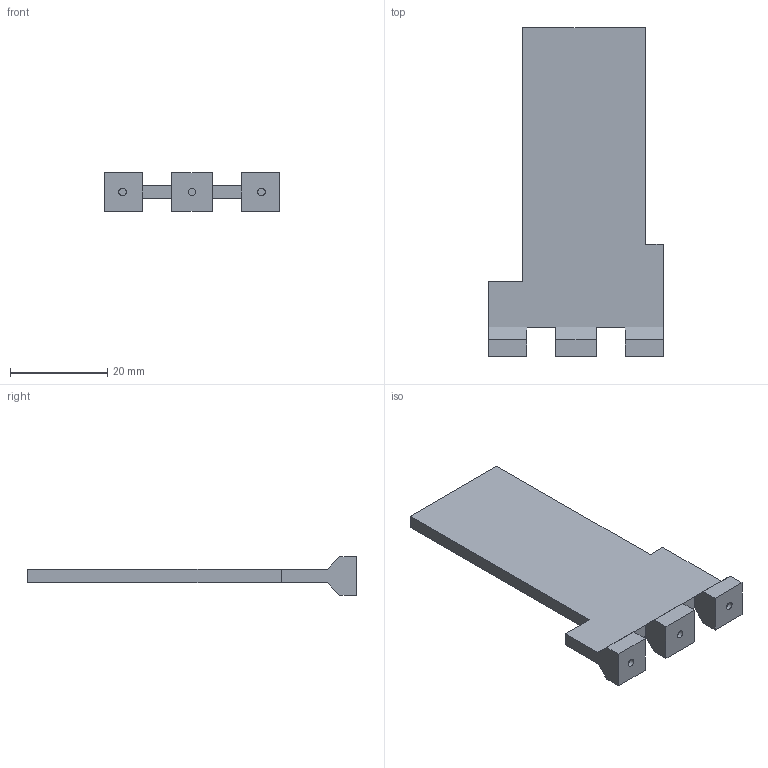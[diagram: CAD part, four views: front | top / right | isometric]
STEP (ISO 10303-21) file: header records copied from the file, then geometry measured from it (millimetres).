
FILE_DESCRIPTION(/* description */ (''),/* implementation_level */ '2;1');
FILE_NAME(/* name */ 'V:\Flow\Inventor\PEEK\Reaktoren\R5.stp',/* time_stamp */ '2020-05-22T11:47:21+02:00',/* author */ ('JN'),/* organization */ (''),/* preprocessor_version */ 'ST-DEVELOPER v17',/* originating_system */ 'Autodesk Inventor 2018',/* authorisation */ '');
FILE_SCHEMA (('AUTOMOTIVE_DESIGN { 1 0 10303 214 3 1 1 }'));
Length unit declared in the file: millimetre
Products named in the file (1): Reaktor_1_PEEK
Bounding box: 35.96 x 67.68 x 8 mm (x, y, z)
Volume: 4643.8 mm3; surface area: 8709.9 mm2
Topology: 1 solids, 1 shells, 1618 faces, 4950 edges, 3151 vertices
Faces by surface type: plane 1603, bspline 12, cylinder 3
Full cylindrical faces by diameter (mm): 1.6 x3
Entity records: 55436 total; most frequent: CARTESIAN_POINT 9984, ORIENTED_EDGE 9900, DIRECTION 8179, EDGE_CURVE 4950, LINE 4911, VECTOR 4911, VERTEX_POINT 3151, EDGE_LOOP 2249
